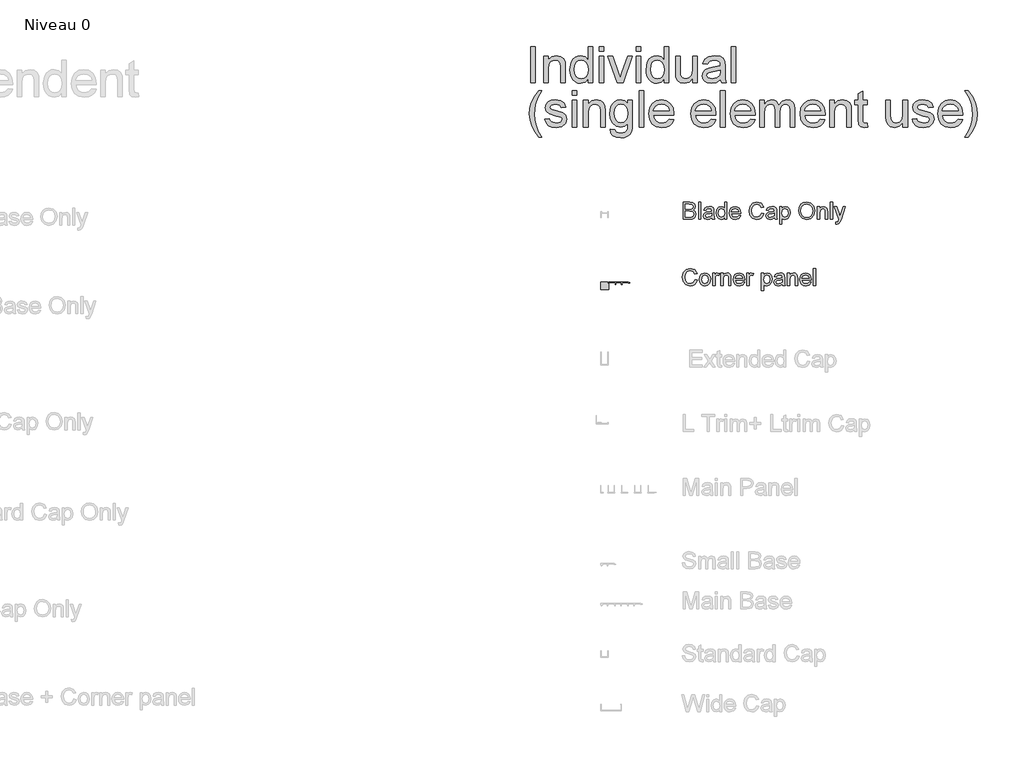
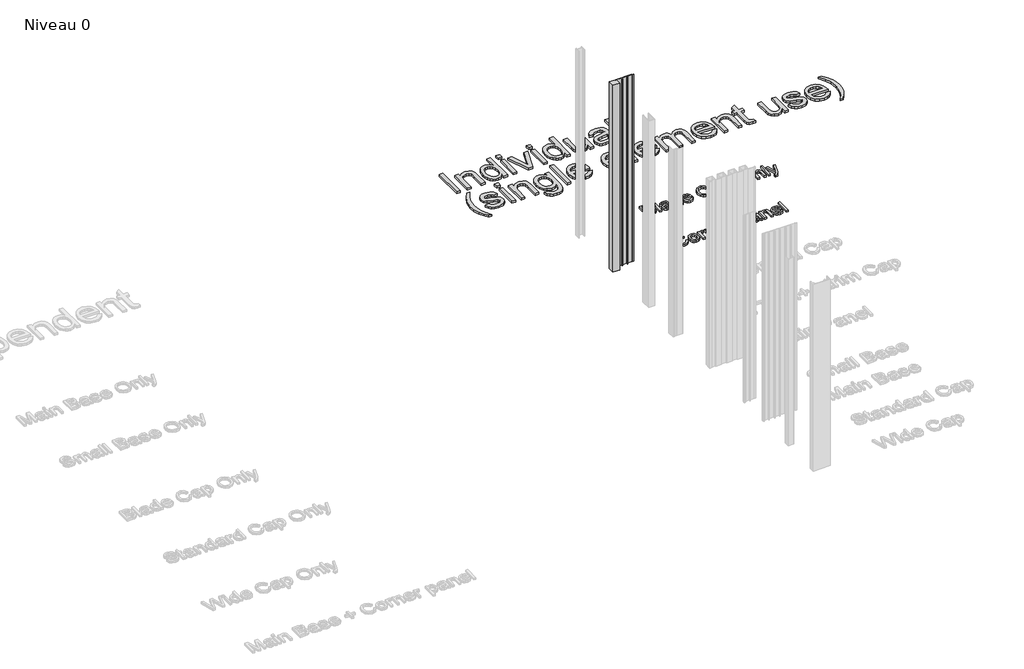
# One storey, part 25 of 25: 4 proxies.
"""IFC4 building model written with IfcOpenShell, lengths in millimetres."""

from ifc_helpers import new_model, si_unit, origin, origin_with_axes, place, context, project, spatial, polyline, outline, extrude, transform, mapped, element, save
from components import a_gen_corner_panel_a_gen_corner_panel_3c76c818

model = new_model("IFC4")

# Units and contexts
model_context = context("Model", 3, world=origin())
ifc_project = project(units=[si_unit("LENGTHUNIT", "METRE", prefix="MILLI")], contexts=[model_context])

# Site, building, storey
site = spatial("IfcSite", under=ifc_project)
building = spatial("IfcBuilding", under=site)
storey = spatial("IfcBuildingStorey", under=building, Name="Niveau 0", Elevation=0.0)

# Proxies
placement = place(None, origin())
element("IfcBuildingElementProxy", 1, Name="150 mm Arial", ObjectType="150 mm Arial", at=placement, inside=storey, context=model_context, shape_type="SweptSolid", body=[
    extrude(outline(polyline([(10920.3297284, 5103.4108666), (10920.3297284, 5254.0953318), (10939.1652866, 5254.0953318), (10939.1652866, 5103.4108666), (10920.3297284, 5103.4108666)])), origin_with_axes(), (0.0, 0.0, 1.0), 10.0),
    extrude(outline(polyline([(10974.4819581, 5103.4108666), (10974.4819581, 5214.0697707), (10993.3175163, 5214.0697707), (10993.3175163, 5198.6187269), (11007.7200964, 5211.9728434), (11027.383389, 5216.4242155), (11045.1704835, 5212.837366), (11057.3105893, 5203.419587), (11062.9575779, 5189.5688299), (11063.9508593, 5171.3586711), (11063.9508593, 5103.4108666), (11045.1153012, 5103.4108666), (11045.1153012, 5168.8202853), (11042.9447974, 5185.4853397), (11035.2744578, 5194.2961135), (11022.3434057, 5197.5886573), (11011.3115444, 5195.7400503), (11001.9075608, 5190.1942292), (10995.4650274, 5179.4796661), (10993.3175163, 5162.124833), (10993.3175163, 5103.4108666), (10974.4819581, 5103.4108666)])), origin_with_axes(), (0.0, 0.0, 1.0), 10.0),
    extrude(outline(polyline([(11158.1286501, 5103.4108666), (11158.1286501, 5121.1795669), (11145.6666475, 5106.0872081), (11128.4405731, 5101.0564218), (11116.2636791, 5102.8774377), (11105.1168546, 5108.3404853), (11095.6806814, 5117.0638871), (11088.6357412, 5128.6659656), (11084.2487484, 5142.677671), (11082.7864175, 5158.6299541), (11088.1758887, 5188.6123367), (11094.9081292, 5200.5041222), (11104.3259083, 5209.2505166), (11115.7164546, 5214.6307908), (11128.3669967, 5216.4242155), (11145.7310269, 5211.2922617), (11158.1286501, 5197.9565393), (11158.1286501, 5254.0953318), (11176.9642083, 5254.0953318), (11176.9642083, 5103.4108666), (11158.1286501, 5103.4108666)]), holes=[polyline([(11101.6219756, 5158.7035305), (11103.7464942, 5141.6659956), (11110.1200497, 5129.5488823), (11119.381479, 5122.3062056), (11130.1696185, 5119.89198), (11140.9531595, 5122.195841), (11149.9800639, 5129.1074239), (11156.0915036, 5140.7554876), (11158.1286501, 5157.2687907), (11156.0547154, 5175.3225996), (11149.8329111, 5187.8397845), (11140.5760804, 5195.1514391), (11129.3970663, 5197.5886573), (11118.4985622, 5195.2480082), (11109.5682267, 5188.2260606), (11103.6085384, 5176.1641297), (11101.6219756, 5158.7035305)])]), origin_with_axes(), (0.0, 0.0, 1.0), 10.0),
    extrude(outline(polyline([(11205.2175455, 5235.2597737), (11205.2175455, 5254.0953318), (11224.0531036, 5254.0953318), (11224.0531036, 5235.2597737), (11205.2175455, 5235.2597737)])), origin_with_axes(), (0.0, 0.0, 1.0), 10.0),
    extrude(outline(polyline([(11205.2175455, 5103.4108666), (11205.2175455, 5214.0697707), (11224.0531036, 5214.0697707), (11224.0531036, 5103.4108666), (11205.2175455, 5103.4108666)])), origin_with_axes(), (0.0, 0.0, 1.0), 10.0),
    extrude(outline(polyline([(11279.4561321, 5103.4108666), (11240.534217, 5214.0697707), (11260.4734212, 5214.0697707), (11284.0546571, 5147.7774352), (11291.1547796, 5125.4837863), (11298.1077493, 5146.5266364), (11321.836138, 5214.0697707), (11341.7753421, 5214.0697707), (11303.3316736, 5103.4108666), (11279.4561321, 5103.4108666)])), origin_with_axes(), (0.0, 0.0, 1.0), 10.0),
    extrude(outline(polyline([(11358.2564555, 5235.2597737), (11358.2564555, 5254.0953318), (11377.0920136, 5254.0953318), (11377.0920136, 5235.2597737), (11358.2564555, 5235.2597737)])), origin_with_axes(), (0.0, 0.0, 1.0), 10.0),
    extrude(outline(polyline([(11358.2564555, 5103.4108666), (11358.2564555, 5214.0697707), (11377.0920136, 5214.0697707), (11377.0920136, 5103.4108666), (11358.2564555, 5103.4108666)])), origin_with_axes(), (0.0, 0.0, 1.0), 10.0),
    extrude(outline(polyline([(11473.6242492, 5103.4108666), (11473.6242492, 5121.1795669), (11461.1622466, 5106.0872081), (11443.9361722, 5101.0564218), (11431.7592781, 5102.8774377), (11420.6124537, 5108.3404853), (11411.1762805, 5117.0638871), (11404.1313403, 5128.6659656), (11399.7443475, 5142.677671), (11398.2820166, 5158.6299541), (11403.6714878, 5188.6123367), (11410.4037283, 5200.5041222), (11419.8215074, 5209.2505166), (11431.2120536, 5214.6307908), (11443.8625958, 5216.4242155), (11461.2266259, 5211.2922617), (11473.6242492, 5197.9565393), (11473.6242492, 5254.0953318), (11492.4598073, 5254.0953318), (11492.4598073, 5103.4108666), (11473.6242492, 5103.4108666)]), holes=[polyline([(11417.1175747, 5158.7035305), (11419.2420932, 5141.6659956), (11425.6156488, 5129.5488823), (11434.877078, 5122.3062056), (11445.6652175, 5119.89198), (11456.4487585, 5122.195841), (11465.475663, 5129.1074239), (11471.5871026, 5140.7554876), (11473.6242492, 5157.2687907), (11471.5503144, 5175.3225996), (11465.3285102, 5187.8397845), (11456.0716795, 5195.1514391), (11444.8926653, 5197.5886573), (11433.9941612, 5195.2480082), (11425.0638258, 5188.2260606), (11419.1041375, 5176.1641297), (11417.1175747, 5158.7035305)])]), origin_with_axes(), (0.0, 0.0, 1.0), 10.0),
    extrude(outline(polyline([(11591.3464876, 5103.4108666), (11591.3464876, 5122.4303657), (11576.5944196, 5106.3999078), (11557.3541913, 5101.0564218), (11539.6406732, 5104.8088182), (11527.426991, 5114.2265972), (11521.8167905, 5128.0957485), (11520.7131445, 5145.6069314), (11520.7131445, 5214.0697707), (11539.5487027, 5214.0697707), (11539.5487027, 5154.4728875), (11540.6891369, 5135.2694474), (11548.1387473, 5123.9938642), (11562.1734454, 5119.89198), (11577.9004007, 5124.0858347), (11588.2930671, 5135.5085707), (11591.3464876, 5156.4962385), (11591.3464876, 5214.0697707), (11610.1820458, 5214.0697707), (11610.1820458, 5103.4108666), (11591.3464876, 5103.4108666)])), origin_with_axes(), (0.0, 0.0, 1.0), 10.0),
    extrude(outline(polyline([(11706.7142813, 5117.5375352), (11688.4489402, 5104.77203), (11668.2706128, 5101.0564218), (11652.5298619, 5103.2913049), (11640.9185865, 5109.9959543), (11633.7586831, 5120.1770885), (11631.3720487, 5132.8414262), (11634.9772922, 5147.740647), (11644.4502536, 5158.5563777), (11657.6388232, 5164.7367952), (11673.9359955, 5167.5694865), (11706.6039167, 5174.0442097), (11706.7142813, 5178.2380644), (11705.4174973, 5186.644168), (11701.5271452, 5192.1440038), (11692.826736, 5196.227494), (11680.7050242, 5197.5886573), (11661.6487369, 5193.9650197), (11652.5620516, 5181.107544), (11633.7264935, 5183.4619887), (11641.8750797, 5201.8560885), (11658.2826166, 5212.635031), (11683.1330454, 5216.4242155), (11705.9601232, 5213.0764893), (11718.8543871, 5204.6703858), (11724.6301345, 5191.8864864), (11725.5498395, 5175.405373), (11725.5498395, 5151.9712899), (11726.5063326, 5119.2481865), (11730.258729, 5103.4108666), (11711.4231708, 5103.4108666), (11706.7142813, 5117.5375352)]), holes=[polyline([(11706.7142813, 5155.2086515), (11676.3272285, 5149.4329042), (11660.1220266, 5146.3794836), (11652.7827808, 5141.4130767), (11650.2076068, 5134.1658014), (11655.8178073, 5123.9754701), (11672.2805266, 5119.89198), (11691.3368139, 5124.3985344), (11703.6240725, 5135.3062356), (11706.6039167, 5149.8743626), (11706.7142813, 5155.2086515)])]), origin_with_axes(), (0.0, 0.0, 1.0), 10.0),
    extrude(outline(polyline([(11751.4487319, 5103.4108666), (11751.4487319, 5254.0953318), (11770.2842901, 5254.0953318), (11770.2842901, 5103.4108666), (11751.4487319, 5103.4108666)])), origin_with_axes(), (0.0, 0.0, 1.0), 10.0),
    extrude(outline(polyline([(10953.2919552, 4878.068634), (10938.696237, 4898.5504641), (10926.5469341, 4922.2512616), (10918.3523627, 4948.0213954), (10915.6208389, 4974.7112341), (10917.662584, 4998.117726), (10923.7878192, 5020.5125425), (10935.9463191, 5045.8780061), (10953.2919552, 5071.133105), (10967.4186238, 5071.133105), (10949.7970762, 5041.2978752), (10939.2020748, 5012.3823504), (10934.456397, 4974.6008695), (10936.5165362, 4950.454015), (10942.6969537, 4926.3163576), (10952.9976496, 4902.1878973), (10967.4186238, 4878.068634), (10953.2919552, 4878.068634)])), origin_with_axes(), (0.0, 0.0, 1.0), 10.0),
    extrude(outline(polyline([(10979.1908476, 4953.4108666), (10998.0264058, 4955.7653114), (11000.9970529, 4947.7086957), (11006.7452091, 4941.7857955), (11026.7212014, 4936.9297532), (11045.9246416, 4941.3811253), (11052.1786355, 4951.828974), (11050.60594, 4956.629834), (11045.8878534, 4960.2902599), (11026.5004722, 4965.661337), (10998.1367704, 4974.876781), (10985.7575413, 4985.6373294), (10981.5452924, 5000.8308558), (10984.9298068, 5014.8655539), (10994.1636449, 5025.589314), (11006.1382038, 5031.1627263), (11022.3434057, 5033.4619887), (11045.262454, 5029.7647747), (11059.830581, 5019.7583844), (11066.3053041, 5002.8542067), (11047.469746, 5000.499762), (11040.3880175, 5010.8924283), (11023.8149337, 5014.6264306), (11005.7887159, 5011.0579752), (11000.3808506, 5002.7438421), (11002.6249307, 4997.2624004), (11009.6514768, 4993.1053339), (11025.8750728, 4989.0954201), (11053.5214048, 4980.229464), (11066.3604864, 4970.1862856), (11071.0141936, 4953.8155368), (11065.551146, 4935.789319), (11049.7874025, 4922.7111141), (11026.463684, 4918.094195), (11007.471776, 4920.3198811), (10993.6118219, 4926.9969393), (10984.3595897, 4938.0517933), (10979.1908476, 4953.4108666)])), origin_with_axes(), (0.0, 0.0, 1.0), 10.0),
    extrude(outline(polyline([(11092.2041966, 5052.2975469), (11092.2041966, 5071.133105), (11111.0397547, 5071.133105), (11111.0397547, 5052.2975469), (11092.2041966, 5052.2975469)])), origin_with_axes(), (0.0, 0.0, 1.0), 10.0),
    extrude(outline(polyline([(11092.2041966, 4920.4486398), (11092.2041966, 5031.107544), (11111.0397547, 5031.107544), (11111.0397547, 4920.4486398), (11092.2041966, 4920.4486398)])), origin_with_axes(), (0.0, 0.0, 1.0), 10.0),
    extrude(outline(polyline([(11139.2930919, 4920.4486398), (11139.2930919, 5031.107544), (11158.1286501, 5031.107544), (11158.1286501, 5015.6565002), (11172.5312302, 5029.0106166), (11192.1945229, 5033.4619887), (11209.9816173, 5029.8751393), (11222.1217232, 5020.4573602), (11227.7687118, 5006.6066031), (11228.7619932, 4988.3964443), (11228.7619932, 4920.4486398), (11209.926435, 4920.4486398), (11209.926435, 4985.8580586), (11207.7559313, 5002.5231129), (11200.0855917, 5011.3338867), (11187.1545395, 5014.6264306), (11176.1226782, 5012.7778236), (11166.7186947, 5007.2320025), (11160.2761612, 4996.5174394), (11158.1286501, 4979.1626062), (11158.1286501, 4920.4486398), (11139.2930919, 4920.4486398)])), origin_with_axes(), (0.0, 0.0, 1.0), 10.0),
    extrude(outline(polyline([(11249.9519961, 4911.0308607), (11268.7875543, 4908.676416), (11274.8943954, 4898.7436021), (11293.1781305, 4894.5497474), (11312.4551471, 4899.2954251), (11321.652197, 4912.6127533), (11322.9397839, 4934.5753084), (11309.677638, 4923.980307), (11293.5092243, 4920.4486398), (11274.0896535, 4924.5597211), (11259.6088985, 4936.892965), (11250.6003881, 4954.9743651), (11247.5975513, 4976.3299149), (11252.9870226, 5005.5213512), (11259.5813073, 5017.37175), (11268.5852192, 5026.1779252), (11279.6906569, 5031.6409729), (11292.5895193, 5033.4619887), (11309.3925295, 5029.3417104), (11322.9397839, 5016.9808753), (11322.9397839, 5031.107544), (11341.7753421, 5031.107544), (11341.7753421, 4935.5685898), (11340.4877551, 4913.5094657), (11336.6249942, 4898.9827254), (11329.9709286, 4889.3488156), (11320.3094277, 4881.9681831), (11307.8520236, 4877.2776877), (11292.8102485, 4875.7141892), (11275.28527, 4877.9168826), (11261.4850966, 4884.524963), (11252.6329361, 4895.5568243), (11249.9519961, 4911.0308607)]), holes=[polyline([(11266.4331095, 4977.6175019), (11268.4426649, 4960.3408437), (11274.4713311, 4948.4628537), (11283.5350237, 4941.5788619), (11294.6496585, 4939.284198), (11305.6815198, 4941.5650663), (11314.7911977, 4948.4076714), (11320.9026374, 4960.13391), (11322.9397839, 4977.0656789), (11320.8428566, 4993.3950409), (11314.5520745, 5005.1534692), (11305.3090393, 5012.2581902), (11294.3553529, 5014.6264306), (11283.5994031, 5012.2949784), (11274.5816957, 5005.300622), (11268.470256, 4993.7169377), (11266.4331095, 4977.6175019)])]), origin_with_axes(), (0.0, 0.0, 1.0), 10.0),
    extrude(outline(polyline([(11370.0286793, 4920.4486398), (11370.0286793, 5071.133105), (11388.8642375, 5071.133105), (11388.8642375, 4920.4486398), (11370.0286793, 4920.4486398)])), origin_with_axes(), (0.0, 0.0, 1.0), 10.0),
    extrude(outline(polyline([(11494.5935229, 4953.4108666), (11513.061199, 4951.0564218), (11506.4071335, 4937.1412853), (11495.7891394, 4926.7394219), (11481.4463401, 4920.2555018), (11463.6178589, 4918.094195), (11441.517348, 4921.8235988), (11424.5120028, 4933.0118099), (11413.668681, 4950.9322616), (11410.0542404, 4974.8583869), (11413.7054692, 4999.589254), (11424.6591556, 5018.0845213), (11441.4345746, 5029.6176219), (11462.5510011, 5033.4619887), (11483.0098386, 5029.6268189), (11499.3575947, 5018.1213095), (11510.0767564, 4999.6628304), (11513.6498102, 4974.9687515), (11513.5394456, 4969.89198), (11428.8897986, 4969.89198), (11432.1501527, 4955.7929025), (11439.7239233, 4945.4278273), (11450.6546171, 4939.0542717), (11463.9857409, 4936.9297532), (11482.453417, 4940.8660905), (11494.5935229, 4953.4108666)]), holes=[polyline([(11428.8897986, 4988.7275381), (11494.8142521, 4988.7275381), (11492.2666693, 4998.6787461), (11487.2726712, 5005.7972627), (11476.2913936, 5012.4191386), (11462.4774247, 5014.6264306), (11449.7808974, 5012.8651955), (11439.2824649, 5007.5814904), (11431.9846058, 4999.3455322), (11428.8897986, 4988.7275381)])]), origin_with_axes(), (0.0, 0.0, 1.0), 10.0),
    extrude(outline(polyline([(11668.8224358, 4953.4108666), (11687.290112, 4951.0564218), (11680.6360464, 4937.1412853), (11670.0180523, 4926.7394219), (11655.675253, 4920.2555018), (11637.8467718, 4918.094195), (11615.746261, 4921.8235988), (11598.7409157, 4933.0118099), (11587.8975939, 4950.9322616), (11584.2831533, 4974.8583869), (11587.9343821, 4999.589254), (11598.8880685, 5018.0845213), (11615.6634875, 5029.6176219), (11636.779914, 5033.4619887), (11657.2387515, 5029.6268189), (11673.5865076, 5018.1213095), (11684.3056693, 4999.6628304), (11687.8787232, 4974.9687515), (11687.7683586, 4969.89198), (11603.1187115, 4969.89198), (11606.3790656, 4955.7929025), (11613.9528362, 4945.4278273), (11624.88353, 4939.0542717), (11638.2146538, 4936.9297532), (11656.68233, 4940.8660905), (11668.8224358, 4953.4108666)]), holes=[polyline([(11603.1187115, 4988.7275381), (11669.043165, 4988.7275381), (11666.4955822, 4998.6787461), (11661.5015841, 5005.7972627), (11650.5203065, 5012.4191386), (11636.7063376, 5014.6264306), (11624.0098103, 5012.8651955), (11613.5113778, 5007.5814904), (11606.2135188, 4999.3455322), (11603.1187115, 4988.7275381)])]), origin_with_axes(), (0.0, 0.0, 1.0), 10.0),
    extrude(outline(polyline([(11706.7142813, 4920.4486398), (11706.7142813, 5071.133105), (11725.5498395, 5071.133105), (11725.5498395, 4920.4486398), (11706.7142813, 4920.4486398)])), origin_with_axes(), (0.0, 0.0, 1.0), 10.0),
    extrude(outline(polyline([(11831.2791249, 4953.4108666), (11849.746801, 4951.0564218), (11843.0927354, 4937.1412853), (11832.4747414, 4926.7394219), (11818.1319421, 4920.2555018), (11800.3034609, 4918.094195), (11778.20295, 4921.8235988), (11761.1976048, 4933.0118099), (11750.354283, 4950.9322616), (11746.7398424, 4974.8583869), (11750.3910712, 4999.589254), (11761.3447576, 5018.0845213), (11778.1201766, 5029.6176219), (11799.2366031, 5033.4619887), (11819.6954406, 5029.6268189), (11836.0431967, 5018.1213095), (11846.7623583, 4999.6628304), (11850.3354122, 4974.9687515), (11850.2250476, 4969.89198), (11765.5754005, 4969.89198), (11768.8357547, 4955.7929025), (11776.4095253, 4945.4278273), (11787.3402191, 4939.0542717), (11800.6713429, 4936.9297532), (11819.139019, 4940.8660905), (11831.2791249, 4953.4108666)]), holes=[polyline([(11765.5754005, 4988.7275381), (11831.4998541, 4988.7275381), (11828.9522713, 4998.6787461), (11823.9582732, 5005.7972627), (11812.9769956, 5012.4191386), (11799.1630267, 5014.6264306), (11786.4664993, 5012.8651955), (11775.9680669, 5007.5814904), (11768.6702078, 4999.3455322), (11765.5754005, 4988.7275381)])]), origin_with_axes(), (0.0, 0.0, 1.0), 10.0),
    extrude(outline(polyline([(11869.1709704, 4920.4486398), (11869.1709704, 5031.107544), (11888.0065285, 5031.107544), (11888.0065285, 5012.8973852), (11900.9559748, 5027.8150001), (11919.3868627, 5033.4619887), (11929.8623025, 5032.0226504), (11938.2592091, 5027.7046355), (11948.6334813, 5011.57301), (11963.330367, 5027.9897441), (11981.8900137, 5033.4619887), (11996.048872, 5031.1857189), (12006.5197133, 5024.3569094), (12012.9898379, 5012.7916191), (12015.1465461, 4996.3059072), (12015.1465461, 4920.4486398), (11996.3109879, 4920.4486398), (11996.3109879, 4988.2125033), (11994.5635484, 5003.9394586), (11988.2359781, 5011.6833746), (11977.4754298, 5014.6264306), (11967.2713029, 5012.7410354), (11958.9525713, 5007.0848497), (11953.4205458, 4997.2715975), (11951.5765373, 4982.9150026), (11951.5765373, 4920.4486398), (11932.7409791, 4920.4486398), (11932.7409791, 4990.3094307), (11928.3815775, 5008.5563777), (11922.6288228, 5013.1089173), (11914.089362, 5014.6264306), (11900.1466344, 5010.5797286), (11890.8760081, 4998.7339284), (11888.0065285, 4976.2563385), (11888.0065285, 4920.4486398), (11869.1709704, 4920.4486398)])), origin_with_axes(), (0.0, 0.0, 1.0), 10.0),
    extrude(outline(polyline([(12120.8758315, 4953.4108666), (12139.3435076, 4951.0564218), (12132.689442, 4937.1412853), (12122.071448, 4926.7394219), (12107.7286487, 4920.2555018), (12089.9001675, 4918.094195), (12067.7996566, 4921.8235988), (12050.7943114, 4933.0118099), (12039.9509896, 4950.9322616), (12036.336549, 4974.8583869), (12039.9877778, 4999.589254), (12050.9414642, 5018.0845213), (12067.7168832, 5029.6176219), (12088.8333097, 5033.4619887), (12109.2921472, 5029.6268189), (12125.6399033, 5018.1213095), (12136.359065, 4999.6628304), (12139.9321188, 4974.9687515), (12139.8217542, 4969.89198), (12055.1721071, 4969.89198), (12058.4324613, 4955.7929025), (12066.0062319, 4945.4278273), (12076.9369257, 4939.0542717), (12090.2680495, 4936.9297532), (12108.7357256, 4940.8660905), (12120.8758315, 4953.4108666)]), holes=[polyline([(12055.1721071, 4988.7275381), (12121.0965607, 4988.7275381), (12118.5489779, 4998.6787461), (12113.5549798, 5005.7972627), (12102.5737022, 5012.4191386), (12088.7597333, 5014.6264306), (12076.0632059, 5012.8651955), (12065.5647735, 5007.5814904), (12058.2669144, 4999.3455322), (12055.1721071, 4988.7275381)])]), origin_with_axes(), (0.0, 0.0, 1.0), 10.0),
    extrude(outline(polyline([(12158.767677, 4920.4486398), (12158.767677, 5031.107544), (12177.6032351, 5031.107544), (12177.6032351, 5015.6565002), (12192.0058152, 5029.0106166), (12211.6691079, 5033.4619887), (12229.4562024, 5029.8751393), (12241.5963082, 5020.4573602), (12247.2432968, 5006.6066031), (12248.2365782, 4988.3964443), (12248.2365782, 4920.4486398), (12229.4010201, 4920.4486398), (12229.4010201, 4985.8580586), (12227.2305163, 5002.5231129), (12219.5601767, 5011.3338867), (12206.6291246, 5014.6264306), (12195.5972632, 5012.7778236), (12186.1932797, 5007.2320025), (12179.7507463, 4996.5174394), (12177.6032351, 4979.1626062), (12177.6032351, 4920.4486398), (12158.767677, 4920.4486398)])), origin_with_axes(), (0.0, 0.0, 1.0), 10.0),
    extrude(outline(polyline([(12314.1610317, 4936.157201), (12316.5154765, 4919.8968168), (12302.4255961, 4918.094195), (12286.6434585, 4921.221192), (12278.7707838, 4929.4249605), (12276.4899154, 4950.7989044), (12276.4899154, 5012.2719858), (12262.3632468, 5012.2719858), (12262.3632468, 5031.107544), (12276.4899154, 5031.107544), (12276.4899154, 5057.9997178), (12295.3254736, 5069.0729659), (12295.3254736, 5031.107544), (12314.1610317, 5031.107544), (12314.1610317, 5012.2719858), (12295.3254736, 5012.2719858), (12295.3254736, 4951.3507274), (12296.318755, 4941.6386427), (12299.5377224, 4938.1989461), (12305.9572633, 4936.9297532), (12314.1610317, 4936.157201)])), origin_with_axes(), (0.0, 0.0, 1.0), 10.0),
    extrude(outline(polyline([(12462.4910522, 4920.4486398), (12462.4910522, 4939.468139), (12447.7389842, 4923.437681), (12428.4987558, 4918.094195), (12410.7852378, 4921.8465914), (12398.5715555, 4931.2643705), (12392.9613551, 4945.1335217), (12391.8577091, 4962.6447047), (12391.8577091, 5031.107544), (12410.6932673, 5031.107544), (12410.6932673, 4971.5106607), (12411.8337015, 4952.3072206), (12419.2833119, 4941.0316374), (12433.31801, 4936.9297532), (12449.0449653, 4941.1236079), (12459.4376316, 4952.5463439), (12462.4910522, 4973.5340117), (12462.4910522, 5031.107544), (12481.3266104, 5031.107544), (12481.3266104, 4920.4486398), (12462.4910522, 4920.4486398)])), origin_with_axes(), (0.0, 0.0, 1.0), 10.0),
    extrude(outline(polyline([(12500.1621685, 4953.4108666), (12518.9977267, 4955.7653114), (12521.9683738, 4947.7086957), (12527.7165299, 4941.7857955), (12547.6925223, 4936.9297532), (12566.8959624, 4941.3811253), (12573.1499563, 4951.828974), (12571.5772608, 4956.629834), (12566.8591742, 4960.2902599), (12547.4717931, 4965.661337), (12519.1080913, 4974.876781), (12506.7288621, 4985.6373294), (12502.5166133, 5000.8308558), (12505.9011276, 5014.8655539), (12515.1349657, 5025.589314), (12527.1095247, 5031.1627263), (12543.3147265, 5033.4619887), (12566.2337748, 5029.7647747), (12580.8019018, 5019.7583844), (12587.276625, 5002.8542067), (12568.4410668, 5000.499762), (12561.3593384, 5010.8924283), (12544.7862545, 5014.6264306), (12526.7600368, 5011.0579752), (12521.3521714, 5002.7438421), (12523.5962516, 4997.2624004), (12530.6227977, 4993.1053339), (12546.8463937, 4989.0954201), (12574.4927256, 4980.229464), (12587.3318073, 4970.1862856), (12591.9855145, 4953.8155368), (12586.5224669, 4935.789319), (12570.7587234, 4922.7111141), (12547.4350049, 4918.094195), (12528.4430969, 4920.3198811), (12514.5831427, 4926.9969393), (12505.3309105, 4938.0517933), (12500.1621685, 4953.4108666)])), origin_with_axes(), (0.0, 0.0, 1.0), 10.0),
    extrude(outline(polyline([(12690.6514656, 4953.4108666), (12709.1191418, 4951.0564218), (12702.4650762, 4937.1412853), (12691.8470821, 4926.7394219), (12677.5042828, 4920.2555018), (12659.6758016, 4918.094195), (12637.5752908, 4921.8235988), (12620.5699455, 4933.0118099), (12609.7266237, 4950.9322616), (12606.1121831, 4974.8583869), (12609.7634119, 4999.589254), (12620.7170983, 5018.0845213), (12637.4925173, 5029.6176219), (12658.6089438, 5033.4619887), (12679.0677813, 5029.6268189), (12695.4155374, 5018.1213095), (12706.1346991, 4999.6628304), (12709.707753, 4974.9687515), (12709.5973884, 4969.89198), (12624.9477413, 4969.89198), (12628.2080955, 4955.7929025), (12635.781866, 4945.4278273), (12646.7125598, 4939.0542717), (12660.0436836, 4936.9297532), (12678.5113598, 4940.8660905), (12690.6514656, 4953.4108666)]), holes=[polyline([(12624.9477413, 4988.7275381), (12690.8721948, 4988.7275381), (12688.324612, 4998.6787461), (12683.3306139, 5005.7972627), (12672.3493363, 5012.4191386), (12658.5353674, 5014.6264306), (12645.8388401, 5012.8651955), (12635.3404076, 5007.5814904), (12628.0425486, 4999.3455322), (12624.9477413, 4988.7275381)])]), origin_with_axes(), (0.0, 0.0, 1.0), 10.0),
    extrude(outline(polyline([(12733.2522007, 4878.068634), (12719.125532, 4878.068634), (12733.5465062, 4902.1878973), (12743.8472021, 4926.3163576), (12750.0276196, 4950.454015), (12752.0877588, 4974.6008695), (12747.3420811, 5012.0512566), (12736.8574442, 5041.0035696), (12719.125532, 5071.133105), (12733.2522007, 5071.133105), (12750.5978367, 5045.8780061), (12762.7563367, 5020.5125425), (12768.8815719, 4998.117726), (12770.923317, 4974.7112341), (12768.1779976, 4948.0213954), (12759.9420394, 4922.2512616), (12747.7789409, 4898.5504641), (12733.2522007, 4878.068634)])), origin_with_axes(), (0.0, 0.0, 1.0), 10.0),
])
element("IfcBuildingElementProxy", 2, Name="70mm Arial", ObjectType="70mm Arial", at=placement, inside=storey, context=model_context, shape_type="SweptSolid", body=[
    extrude(outline(polyline([(11552.3839824, 4538.5036336), (11552.3839824, 4608.8230507), (11579.2172952, 4608.8230507), (11592.3592663, 4606.7543276), (11600.1191238, 4600.3936479), (11602.9260635, 4591.3977069), (11600.5654873, 4583.1829019), (11593.4322554, 4576.9595648), (11602.0934239, 4570.4014551), (11605.1235453, 4559.4655497), (11603.0548222, 4550.0146612), (11597.930226, 4543.2848733), (11590.2819593, 4539.7139654), (11579.0112812, 4538.5036336), (11552.3839824, 4538.5036336)]), holes=[polyline([(11561.1739096, 4580.2557875), (11577.2258273, 4580.2557875), (11586.5994605, 4581.0111719), (11592.2390915, 4584.264475), (11594.1361363, 4589.9899451), (11592.3678502, 4595.7239991), (11587.3033414, 4599.1146449), (11576.0069116, 4600.0331236), (11561.1739096, 4600.0331236), (11561.1739096, 4580.2557875)]), polyline([(11561.1739096, 4547.2935608), (11579.2001273, 4547.2935608), (11585.7239014, 4547.6369173), (11591.2433576, 4549.5511299), (11594.9001046, 4553.4568104), (11596.3336181, 4559.3797106), (11594.6511711, 4566.2125055), (11589.2003862, 4570.2898643), (11578.341736, 4571.4658604), (11561.1739096, 4571.4658604), (11561.1739096, 4547.2935608)])]), origin_with_axes(), (0.0, 0.0, 1.0), 10.0),
    extrude(outline(polyline([(11616.1109542, 4538.5036336), (11616.1109542, 4608.8230507), (11624.9008813, 4608.8230507), (11624.9008813, 4538.5036336), (11616.1109542, 4538.5036336)])), origin_with_axes(), (0.0, 0.0, 1.0), 10.0),
    extrude(outline(polyline([(11671.0479988, 4545.096079), (11662.524173, 4539.1388432), (11653.1076202, 4537.4048927), (11640.3433412, 4541.5766746), (11635.8882902, 4552.2378948), (11637.5707372, 4559.1908645), (11641.9914525, 4564.2382055), (11648.1461183, 4567.1224003), (11655.7514654, 4568.4443229), (11670.9964953, 4571.4658604), (11671.0479988, 4573.4229926), (11668.6273353, 4579.912431), (11658.9103455, 4582.4532693), (11650.0174114, 4580.7622384), (11645.7769583, 4574.7620831), (11636.9870311, 4575.860824), (11640.7897047, 4584.4447372), (11648.4465553, 4589.4749103), (11660.043422, 4591.2431964), (11670.6960583, 4589.6809242), (11676.7133815, 4585.7580759), (11679.4087303, 4579.7922562), (11679.8379259, 4572.10107), (11679.8379259, 4561.1651645), (11680.2842894, 4545.8943829), (11682.0354077, 4538.5036336), (11673.2454806, 4538.5036336), (11671.0479988, 4545.096079)]), holes=[polyline([(11671.0479988, 4562.6759332), (11656.8673742, 4559.9805845), (11649.3049466, 4558.5556549), (11645.8799652, 4556.2379983), (11644.6782174, 4552.8559365), (11647.2963109, 4548.1004486), (11654.9789132, 4546.1948199), (11663.8718473, 4548.2978786), (11669.6059014, 4553.3881391), (11670.9964953, 4560.1865984), (11671.0479988, 4562.6759332)])]), origin_with_axes(), (0.0, 0.0, 1.0), 10.0),
    extrude(outline(polyline([(11723.7875616, 4538.5036336), (11723.7875616, 4546.7956938), (11717.9719604, 4539.752593), (11709.9331257, 4537.4048927), (11699.0487237, 4540.8041224), (11691.3575375, 4550.2893465), (11688.6278531, 4564.2725411), (11691.1429396, 4578.2643197), (11698.6796154, 4587.8954703), (11709.89879, 4591.2431964), (11718.0020041, 4588.8482847), (11723.7875616, 4582.6249476), (11723.7875616, 4608.8230507), (11732.5774888, 4608.8230507), (11732.5774888, 4538.5036336), (11723.7875616, 4538.5036336)]), holes=[polyline([(11697.4177802, 4564.3068768), (11701.3835481, 4550.7013743), (11710.7400135, 4546.1948199), (11719.9848881, 4550.4953604), (11723.7875616, 4563.6373315), (11719.9162168, 4577.9037953), (11710.3794892, 4582.4532693), (11701.1260307, 4578.0840575), (11697.4177802, 4564.3068768)])]), origin_with_axes(), (0.0, 0.0, 1.0), 10.0),
    extrude(outline(polyline([(11781.917822, 4553.8860061), (11790.5360708, 4552.7872652), (11782.4757763, 4541.4393319), (11767.4625121, 4537.4048927), (11757.1489404, 4539.1452811), (11749.2131126, 4544.3664463), (11744.1528957, 4552.7293238), (11742.4661568, 4563.8948489), (11744.1700636, 4575.4359202), (11749.2817839, 4584.067045), (11757.1103127, 4589.4491586), (11766.9646451, 4591.2431964), (11776.5121026, 4589.4534505), (11784.1410555, 4584.0842128), (11789.1433309, 4575.4702559), (11790.810756, 4563.9463524), (11790.7592526, 4561.5771924), (11751.2560839, 4561.5771924), (11756.3120088, 4550.1605878), (11767.6341904, 4546.1948199), (11776.2524392, 4548.0317773), (11781.917822, 4553.8860061)]), holes=[polyline([(11751.2560839, 4570.3671195), (11782.0208289, 4570.3671195), (11778.5014245, 4578.332991), (11766.9303095, 4582.4532693), (11756.1059949, 4579.1656305), (11751.2560839, 4570.3671195)])]), origin_with_axes(), (0.0, 0.0, 1.0), 10.0),
    extrude(outline(polyline([(11877.6112865, 4563.4999889), (11886.4012137, 4561.2338358), (11882.3453147, 4550.9910814), (11875.980343, 4543.508055), (11867.6196115, 4538.9306833), (11857.5764331, 4537.4048927), (11839.284114, 4542.023038), (11828.5542225, 4555.3967748), (11824.8717237, 4574.1955448), (11829.0349216, 4593.3033356), (11840.872138, 4605.6899224), (11857.7652792, 4609.9217916), (11875.3708852, 4604.445255), (11885.3024728, 4589.0285468), (11876.5125456, 4586.934072), (11869.3020585, 4597.7412188), (11857.4219226, 4601.1318645), (11843.6704937, 4597.3721105), (11835.9020522, 4587.2774285), (11833.6616508, 4574.2127126), (11836.31408, 4559.0706897), (11844.5718045, 4549.3966195), (11856.7008739, 4546.1948199), (11870.1518659, 4550.5554478), (11877.6112865, 4563.4999889)])), origin_with_axes(), (0.0, 0.0, 1.0), 10.0),
    extrude(outline(polyline([(11930.3508494, 4545.096079), (11921.8270235, 4539.1388432), (11912.4104707, 4537.4048927), (11899.6461918, 4541.5766746), (11895.1911408, 4552.2378948), (11896.8735878, 4559.1908645), (11901.2943031, 4564.2382055), (11907.4489689, 4567.1224003), (11915.054316, 4568.4443229), (11930.2993459, 4571.4658604), (11930.3508494, 4573.4229926), (11927.9301858, 4579.912431), (11918.2131961, 4582.4532693), (11909.320262, 4580.7622384), (11905.0798088, 4574.7620831), (11896.2898817, 4575.860824), (11900.0925553, 4584.4447372), (11907.7494059, 4589.4749103), (11919.3462726, 4591.2431964), (11929.9989089, 4589.6809242), (11936.0162321, 4585.7580759), (11938.7115808, 4579.7922562), (11939.1407765, 4572.10107), (11939.1407765, 4561.1651645), (11939.58714, 4545.8943829), (11941.3382583, 4538.5036336), (11932.5483311, 4538.5036336), (11930.3508494, 4545.096079)]), holes=[polyline([(11930.3508494, 4562.6759332), (11916.1702247, 4559.9805845), (11908.6077972, 4558.5556549), (11905.1828158, 4556.2379983), (11903.981068, 4552.8559365), (11906.5991615, 4548.1004486), (11914.2817638, 4546.1948199), (11923.1746979, 4548.2978786), (11928.9087519, 4553.3881391), (11930.2993459, 4560.1865984), (11930.3508494, 4562.6759332)])]), origin_with_axes(), (0.0, 0.0, 1.0), 10.0),
    extrude(outline(polyline([(11951.2269263, 4518.7262976), (11951.2269263, 4590.1444556), (11960.0168535, 4590.1444556), (11960.0168535, 4581.5262067), (11966.094264, 4588.813949), (11974.3004851, 4591.2431964), (11985.4424044, 4587.8439668), (11992.7215628, 4578.2643197), (11995.176562, 4564.7189046), (11992.403958, 4550.4781926), (11984.3522474, 4540.7783706), (11973.2360798, 4537.4048927), (11965.5878131, 4539.6624619), (11960.0168535, 4545.3707642), (11960.0168535, 4518.7262976), (11951.2269263, 4518.7262976)]), holes=[polyline([(11960.0168535, 4563.9120168), (11963.819527, 4550.5211121), (11973.0472337, 4546.1948199), (11982.4637865, 4550.6756226), (11986.3866349, 4564.5643942), (11982.5582096, 4577.9896344), (11973.4077581, 4582.4532693), (11964.0770444, 4577.7063653), (11960.0168535, 4563.9120168)])]), origin_with_axes(), (0.0, 0.0, 1.0), 10.0),
    extrude(outline(polyline([(12030.3362706, 4572.7362795), (12032.6796789, 4588.2860383), (12039.7099038, 4600.0502914), (12050.4440873, 4607.4539166), (12063.8993713, 4609.9217916), (12081.3933864, 4605.2864785), (12093.2735223, 4592.3591052), (12097.359465, 4573.5431674), (12093.0589245, 4554.4697122), (12080.8697677, 4541.731185), (12063.8478678, 4537.4048927), (12046.1650065, 4542.1861324), (12034.3535419, 4555.2336805), (12030.3362706, 4572.7362795)]), holes=[polyline([(12039.1261977, 4572.6504404), (12040.8837539, 4561.6501556), (12046.1564226, 4553.2679644), (12054.0815205, 4547.963106), (12063.7963643, 4546.1948199), (12073.6528427, 4547.9802738), (12081.5908164, 4553.3366357), (12086.8248575, 4561.9763443), (12088.5695379, 4573.6118387), (12085.582336, 4588.118652), (12076.8524963, 4597.7240509), (12063.9508747, 4601.1318645), (12054.4956943, 4599.4901911), (12046.4568596, 4594.5651709), (12040.9588632, 4585.8031414), (12039.1261977, 4572.6504404)])]), origin_with_axes(), (0.0, 0.0, 1.0), 10.0),
    extrude(outline(polyline([(12108.3468739, 4538.5036336), (12108.3468739, 4590.1444556), (12117.136801, 4590.1444556), (12117.136801, 4582.9339684), (12123.8580051, 4589.1658894), (12133.0342083, 4591.2431964), (12141.3348524, 4589.5693334), (12147.0002351, 4585.1743698), (12149.6354965, 4578.7106831), (12150.0990278, 4570.2126091), (12150.0990278, 4538.5036336), (12141.3091007, 4538.5036336), (12141.3091007, 4569.028029), (12140.2961989, 4576.8050544), (12136.7167071, 4580.9167488), (12130.6822161, 4582.4532693), (12121.1454885, 4579.0025362), (12117.136801, 4565.9034846), (12117.136801, 4538.5036336), (12108.3468739, 4538.5036336)])), origin_with_axes(), (0.0, 0.0, 1.0), 10.0),
    extrude(outline(polyline([(12162.1851776, 4538.5036336), (12162.1851776, 4608.8230507), (12170.9751048, 4608.8230507), (12170.9751048, 4538.5036336), (12162.1851776, 4538.5036336)])), origin_with_axes(), (0.0, 0.0, 1.0), 10.0),
    extrude(outline(polyline([(12184.1599955, 4518.7262976), (12183.0612546, 4527.190036), (12187.5248895, 4526.4174838), (12191.6966713, 4527.387466), (12194.2546774, 4530.0913987), (12196.6581731, 4536.5636692), (12197.3448862, 4538.6924797), (12178.666291, 4590.1444556), (12187.9369173, 4590.1444556), (12197.8427532, 4561.4741854), (12201.2934863, 4550.0060773), (12204.7442194, 4560.1350949), (12214.9247405, 4590.1444556), (12224.1266954, 4590.1444556), (12206.1519811, 4537.2675501), (12201.4823324, 4525.7994421), (12196.3834879, 4519.6018567), (12189.5335252, 4517.6275567), (12184.1599955, 4518.7262976)])), origin_with_axes(), (0.0, 0.0, 1.0), 10.0),
])
element("IfcBuildingElementProxy", 3, Name="70mm Arial", ObjectType="70mm Arial", at=placement, inside=storey, context=model_context, shape_type="SweptSolid", body=[
    extrude(outline(polyline([(11601.8273226, 4288.14128), (11610.6172497, 4285.8751269), (11606.5613507, 4275.6323724), (11600.1963791, 4268.1493461), (11591.8356476, 4263.5719743), (11581.7924691, 4262.0461838), (11563.50015, 4266.6643291), (11552.7702585, 4280.0380659), (11549.0877597, 4298.8368358), (11553.2509577, 4317.9446267), (11565.088174, 4330.3312134), (11581.9813152, 4334.5630827), (11599.5869212, 4329.086546), (11609.5185088, 4313.6698379), (11600.7285817, 4311.575363), (11593.5180946, 4322.3825098), (11581.6379587, 4325.7731555), (11567.8865297, 4322.0134015), (11560.1180882, 4311.9187196), (11557.8776869, 4298.8540037), (11560.5301161, 4283.7119807), (11568.7878406, 4274.0379105), (11580.91691, 4270.8361109), (11594.367902, 4275.1967388), (11601.8273226, 4288.14128)])), origin_with_axes(), (0.0, 0.0, 1.0), 10.0),
    extrude(outline(polyline([(11619.4071769, 4288.9653356), (11621.3085136, 4301.4163017), (11627.012524, 4310.1676013), (11642.4979034, 4315.8844875), (11651.7320481, 4314.1440991), (11659.1077755, 4308.9229339), (11663.9426646, 4300.6330197), (11665.5542943, 4289.6863843), (11662.7044351, 4274.0464944), (11654.4037911, 4265.1964799), (11642.4979034, 4262.0461838), (11633.1521679, 4263.7801342), (11625.7850244, 4268.9819856), (11621.0016387, 4277.4457241), (11619.4071769, 4288.9653356)]), holes=[polyline([(11628.197104, 4288.9825034), (11632.2658789, 4275.3598332), (11642.4979034, 4270.8361109), (11652.6955923, 4275.3855849), (11656.7643672, 4289.2571887), (11652.6698406, 4302.5708381), (11642.4979034, 4307.0945603), (11632.2658789, 4302.5880059), (11628.197104, 4288.9825034)])]), origin_with_axes(), (0.0, 0.0, 1.0), 10.0),
    extrude(outline(polyline([(11675.4429624, 4263.1449247), (11675.4429624, 4314.7857466), (11683.1341486, 4314.7857466), (11683.1341486, 4307.1460638), (11688.5935174, 4314.1848727), (11694.0872219, 4315.8844875), (11702.9114847, 4313.1719709), (11699.9757863, 4305.2919386), (11693.7953688, 4307.0945603), (11688.8252831, 4305.3606099), (11685.6578191, 4300.5536185), (11684.2328895, 4290.2872583), (11684.2328895, 4263.1449247), (11675.4429624, 4263.1449247)])), origin_with_axes(), (0.0, 0.0, 1.0), 10.0),
    extrude(outline(polyline([(11708.4051891, 4263.1449247), (11708.4051891, 4314.7857466), (11717.1951163, 4314.7857466), (11717.1951163, 4307.5752595), (11723.9163203, 4313.8071805), (11733.0925236, 4315.8844875), (11741.3931676, 4314.2106244), (11747.0585504, 4309.8156608), (11749.6938117, 4303.3519742), (11750.157343, 4294.8539001), (11750.157343, 4263.1449247), (11741.3674159, 4263.1449247), (11741.3674159, 4293.6693201), (11740.3545141, 4301.4463454), (11736.7750223, 4305.5580399), (11730.7405313, 4307.0945603), (11721.2038037, 4303.6438272), (11717.1951163, 4290.5447757), (11717.1951163, 4263.1449247), (11708.4051891, 4263.1449247)])), origin_with_axes(), (0.0, 0.0, 1.0), 10.0),
    extrude(outline(polyline([(11798.3989353, 4278.5272971), (11807.0171842, 4277.4285563), (11798.9568897, 4266.080623), (11783.9436255, 4262.0461838), (11773.6300537, 4263.7865722), (11765.694226, 4269.0077374), (11760.6340091, 4277.3706148), (11758.9472702, 4288.53614), (11760.6511769, 4300.0772113), (11765.7628973, 4308.708336), (11773.5914261, 4314.0904496), (11783.4457585, 4315.8844875), (11792.993216, 4314.0947416), (11800.6221689, 4308.7255039), (11805.6244443, 4300.1115469), (11807.2918694, 4288.5876434), (11807.240366, 4286.2184834), (11767.7371973, 4286.2184834), (11772.7931222, 4274.8018788), (11784.1153037, 4270.8361109), (11792.7335526, 4272.6730683), (11798.3989353, 4278.5272971)]), holes=[polyline([(11767.7371973, 4295.0084105), (11798.5019423, 4295.0084105), (11794.9825379, 4302.974282), (11783.4114229, 4307.0945603), (11772.5871083, 4303.8069216), (11767.7371973, 4295.0084105)])]), origin_with_axes(), (0.0, 0.0, 1.0), 10.0),
    extrude(outline(polyline([(11816.0817966, 4263.1449247), (11816.0817966, 4314.7857466), (11823.7729828, 4314.7857466), (11823.7729828, 4307.1460638), (11829.2323516, 4314.1848727), (11834.7260561, 4315.8844875), (11843.5503189, 4313.1719709), (11840.6146206, 4305.2919386), (11834.434203, 4307.0945603), (11829.4641173, 4305.3606099), (11826.2966533, 4300.5536185), (11824.8717237, 4290.2872583), (11824.8717237, 4263.1449247), (11816.0817966, 4263.1449247)])), origin_with_axes(), (0.0, 0.0, 1.0), 10.0),
    extrude(outline(polyline([(11876.5125456, 4243.3675886), (11876.5125456, 4314.7857466), (11885.3024728, 4314.7857466), (11885.3024728, 4306.1674977), (11891.3798833, 4313.45524), (11899.5861044, 4315.8844875), (11910.7280237, 4312.4852578), (11918.0071822, 4302.9056107), (11920.4621813, 4289.3601956), (11917.6895774, 4275.1194836), (11909.6378668, 4265.4196617), (11898.5216991, 4262.0461838), (11890.8734325, 4264.3037529), (11885.3024728, 4270.0120552), (11885.3024728, 4243.3675886), (11876.5125456, 4243.3675886)]), holes=[polyline([(11885.3024728, 4288.5533078), (11889.1051463, 4275.1624032), (11898.3328531, 4270.8361109), (11907.7494059, 4275.3169136), (11911.6722542, 4289.2056852), (11907.8438289, 4302.6309255), (11898.6933774, 4307.0945603), (11889.3626637, 4302.3476563), (11885.3024728, 4288.5533078)])]), origin_with_axes(), (0.0, 0.0, 1.0), 10.0),
    extrude(outline(polyline([(11963.3130761, 4269.73737), (11954.7892503, 4263.7801342), (11945.3726975, 4262.0461838), (11932.6084185, 4266.2179656), (11928.1533676, 4276.8791858), (11929.8358146, 4283.8321555), (11934.2565299, 4288.8794965), (11940.4111957, 4291.7636913), (11948.0165428, 4293.085614), (11963.2615727, 4296.1071514), (11963.3130761, 4298.0642836), (11960.8924126, 4304.553722), (11951.1754228, 4307.0945603), (11942.2824887, 4305.4035294), (11938.0420356, 4299.4033741), (11929.2521085, 4300.502115), (11933.054782, 4309.0860282), (11940.7116326, 4314.1162014), (11952.3084994, 4315.8844875), (11962.9611357, 4314.3222153), (11968.9784589, 4310.3993669), (11971.6738076, 4304.4335472), (11972.1030033, 4296.742361), (11972.1030033, 4285.8064556), (11972.5493668, 4270.5356739), (11974.3004851, 4263.1449247), (11965.5105579, 4263.1449247), (11963.3130761, 4269.73737)]), holes=[polyline([(11963.3130761, 4287.3172243), (11949.1324515, 4284.6218755), (11941.5700239, 4283.1969459), (11938.1450426, 4280.8792894), (11936.9432947, 4277.4972276), (11939.5613883, 4272.7417396), (11947.2439906, 4270.8361109), (11956.1369247, 4272.9391696), (11961.8709787, 4278.0294302), (11963.2615727, 4284.8278894), (11963.3130761, 4287.3172243)])]), origin_with_axes(), (0.0, 0.0, 1.0), 10.0),
    extrude(outline(polyline([(11984.1891531, 4263.1449247), (11984.1891531, 4314.7857466), (11992.9790802, 4314.7857466), (11992.9790802, 4307.5752595), (11999.7002843, 4313.8071805), (12008.8764875, 4315.8844875), (12017.1771316, 4314.2106244), (12022.8425143, 4309.8156608), (12025.4777757, 4303.3519742), (12025.941307, 4294.8539001), (12025.941307, 4263.1449247), (12017.1513799, 4263.1449247), (12017.1513799, 4293.6693201), (12016.1384781, 4301.4463454), (12012.5589863, 4305.5580399), (12006.5244953, 4307.0945603), (11996.9877677, 4303.6438272), (11992.9790802, 4290.5447757), (11992.9790802, 4263.1449247), (11984.1891531, 4263.1449247)])), origin_with_axes(), (0.0, 0.0, 1.0), 10.0),
    extrude(outline(polyline([(12074.1828993, 4278.5272971), (12082.8011482, 4277.4285563), (12074.7408537, 4266.080623), (12059.7275894, 4262.0461838), (12049.4140177, 4263.7865722), (12041.4781899, 4269.0077374), (12036.4179731, 4277.3706148), (12034.7312341, 4288.53614), (12036.4351409, 4300.0772113), (12041.5468612, 4308.708336), (12049.3753901, 4314.0904496), (12059.2297225, 4315.8844875), (12068.7771799, 4314.0947416), (12076.4061328, 4308.7255039), (12081.4084082, 4300.1115469), (12083.0758334, 4288.5876434), (12083.0243299, 4286.2184834), (12043.5211613, 4286.2184834), (12048.5770862, 4274.8018788), (12059.8992677, 4270.8361109), (12068.5175166, 4272.6730683), (12074.1828993, 4278.5272971)]), holes=[polyline([(12043.5211613, 4295.0084105), (12074.2859063, 4295.0084105), (12070.7665018, 4302.974282), (12059.1953868, 4307.0945603), (12048.3710722, 4303.8069216), (12043.5211613, 4295.0084105)])]), origin_with_axes(), (0.0, 0.0, 1.0), 10.0),
    extrude(outline(polyline([(12091.8657605, 4263.1449247), (12091.8657605, 4333.4643418), (12100.6556877, 4333.4643418), (12100.6556877, 4263.1449247), (12091.8657605, 4263.1449247)])), origin_with_axes(), (0.0, 0.0, 1.0), 10.0),
])
a_gen_corner_panel_a_gen_corner_panel_shape = a_gen_corner_panel_a_gen_corner_panel_3c76c818(model_context)
element("IfcBuildingElementProxy", 4, Name="A_GEN_ Corner Panel : A_GEN_ Corner Panel", ObjectType="A_GEN_ Corner Panel : A_GEN_ Corner Panel", at=placement, inside=storey, context=model_context, shape_type="MappedRepresentation", body=[
    mapped(a_gen_corner_panel_a_gen_corner_panel_shape, transform((11211.7460162, 4278.7769821, 0.0), x_axis=(1.0, 0.0, 0.0), y_axis=(0.0, 1.0, 0.0), z_axis=(0.0, 0.0, 1.0))),
])

save(model, "model.ifc")
